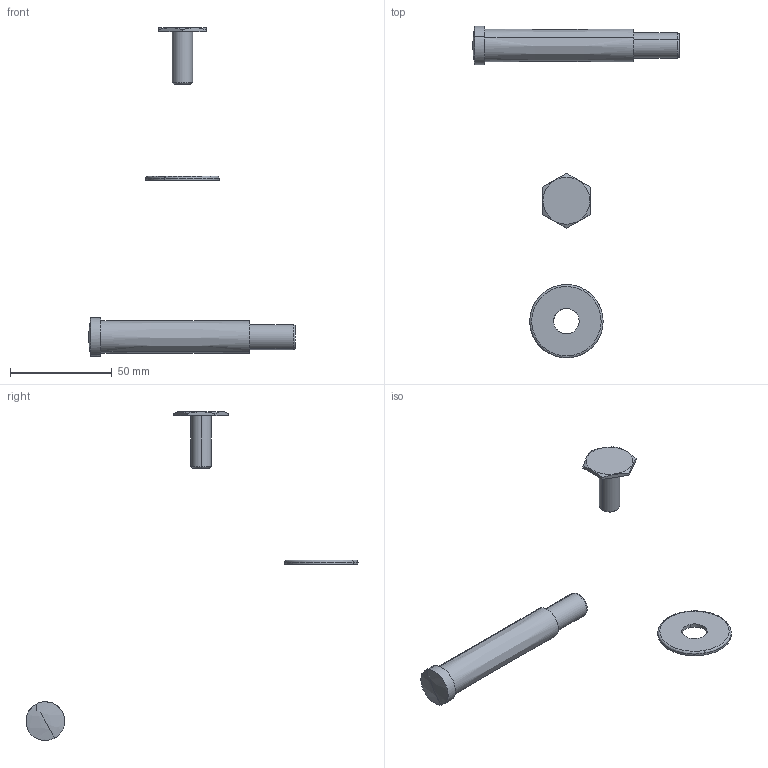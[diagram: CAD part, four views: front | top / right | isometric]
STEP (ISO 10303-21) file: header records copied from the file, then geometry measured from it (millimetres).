
FILE_DESCRIPTION (( 'STEP AP214' ), '1' );
FILE_NAME ('KTU-200WJ-GS-60.STEP', '2018-08-30T07:59:55', ( '' ), ( '' ), 'SwSTEP 2.0', 'SolidWorks 2010', '' );
FILE_SCHEMA (( 'AUTOMOTIVE_DESIGN' ));
Length unit declared in the file: millimetre
Products named in the file (1): KTU-200WJ-GS-60
Bounding box: 101.4 x 162.98 x 161.5 mm (x, y, z)
Volume: 23633.1 mm3; surface area: 9320.7 mm2
Topology: 3 solids, 3 shells, 36 faces, 98 edges, 69 vertices
Faces by surface type: bspline 22, plane 14
Entity records: 4847 total; most frequent: CARTESIAN_POINT 3987, ORIENTED_EDGE 192, EDGE_CURVE 96, VERTEX_POINT 69, B_SPLINE_CURVE_WITH_KNOTS 68, DIRECTION 58, EDGE_LOOP 41, FACE_OUTER_BOUND 36
